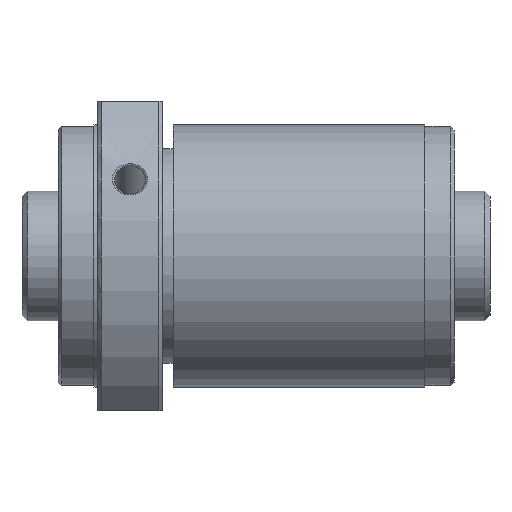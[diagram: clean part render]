
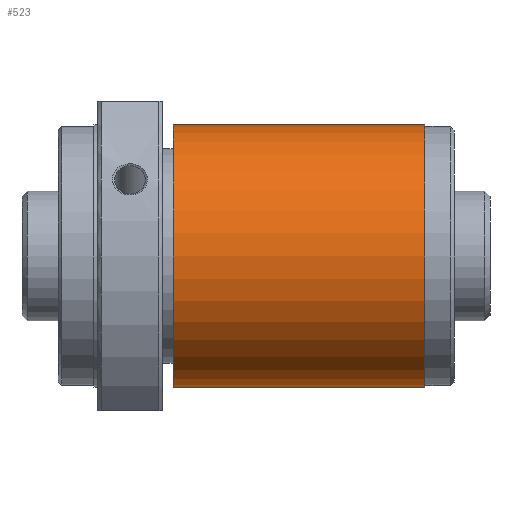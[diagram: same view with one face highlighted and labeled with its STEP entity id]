
A CAD part, front view. The second image highlights one B-rep face of the part: STEP entity #523.
In plain terms, the highlighted cylindrical face has radius 36.5 mm (diameter 73 mm), a full revolution.
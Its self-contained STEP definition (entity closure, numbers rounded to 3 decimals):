
#61=CYLINDRICAL_SURFACE('',#605,36.5);
#121=ORIENTED_EDGE('',*,*,#223,.T.);
#122=ORIENTED_EDGE('',*,*,#222,.F.);
#222=EDGE_CURVE('',#277,#277,#320,.T.);
#223=EDGE_CURVE('',#278,#278,#321,.T.);
#277=VERTEX_POINT('',#911);
#278=VERTEX_POINT('',#914);
#320=CIRCLE('',#604,36.5);
#321=CIRCLE('',#606,36.5);
#370=EDGE_LOOP('',(#121));
#371=EDGE_LOOP('',(#122));
#446=FACE_BOUND('',#370,.T.);
#447=FACE_BOUND('',#371,.T.);
#523=ADVANCED_FACE('',(#446,#447),#61,.T.);
#604=AXIS2_PLACEMENT_3D('',#910,#723,#724);
#605=AXIS2_PLACEMENT_3D('',#912,#725,#726);
#606=AXIS2_PLACEMENT_3D('',#913,#727,#728);
#723=DIRECTION('',(1.,0.,0.));
#724=DIRECTION('',(0.,0.,-1.));
#725=DIRECTION('',(1.,0.,0.));
#726=DIRECTION('',(0.,0.,-1.));
#727=DIRECTION('',(1.,0.,0.));
#728=DIRECTION('',(0.,0.,-1.));
#910=CARTESIAN_POINT('',(101.9,0.,0.));
#911=CARTESIAN_POINT('',(101.9,0.,-36.5));
#912=CARTESIAN_POINT('',(110.,0.,0.));
#913=CARTESIAN_POINT('',(32.,0.,0.));
#914=CARTESIAN_POINT('',(32.,0.,-36.5));
